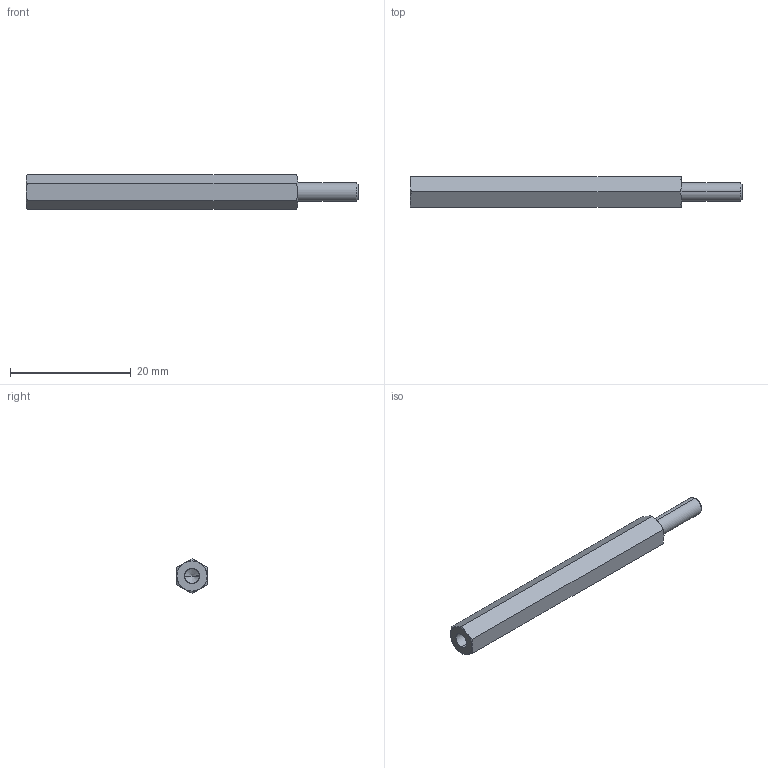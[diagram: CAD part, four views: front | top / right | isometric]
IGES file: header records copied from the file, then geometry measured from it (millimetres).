
Start section: SolidWorks IGES file using analytic representation for surfaces
Global section: file name: C:\Users\render1\Desktop\P0185_IGES\P0185.03-45.igs; native system: SolidWorks 2009; preprocessor: SolidWorks 2009; author: render1; date: 130627.111843; units: millimetre
Bounding box: 55 x 5 x 5.77 mm (x, y, z)
Surface area: 992.8 mm2 (no closed solid volume)
Topology: 0 solids, 0 shells, 29 faces, 324 edges, 322 vertices
Faces by surface type: revolution 20, bspline 9
